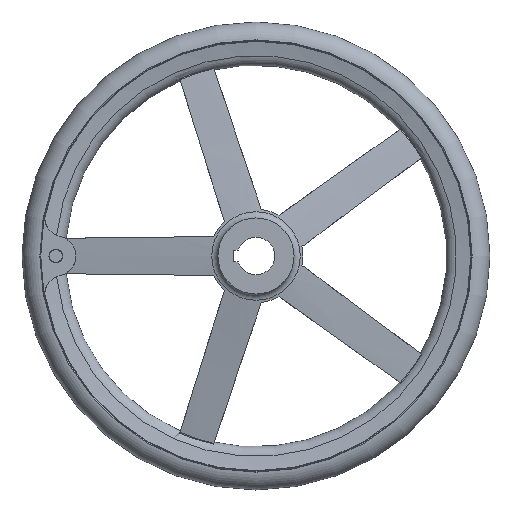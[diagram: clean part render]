
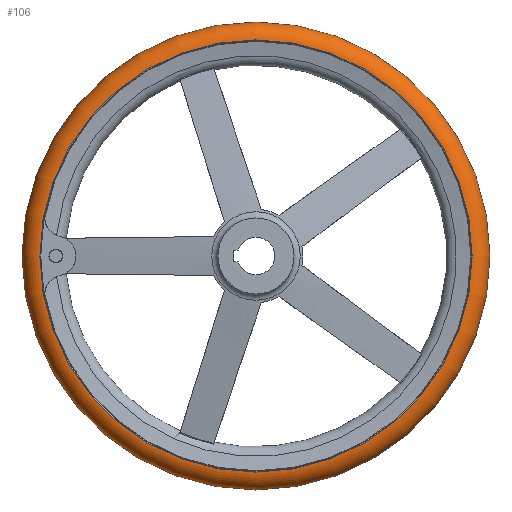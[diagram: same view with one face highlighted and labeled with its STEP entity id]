
A CAD part, left-side view. The second image highlights one B-rep face of the part: STEP entity #106.
In plain terms, the highlighted toroidal (fillet/blend) face has major radius 183.986 mm and minor radius 16.015 mm.
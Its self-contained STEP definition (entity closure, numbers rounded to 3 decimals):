
#106 = ADVANCED_FACE( '', ( #214, #215, #216 ), #217, .T. );
#214 = FACE_BOUND( '', #376, .T. );
#215 = FACE_OUTER_BOUND( '', #377, .T. );
#216 = FACE_OUTER_BOUND( '', #378, .T. );
#217 = TOROIDAL_SURFACE( '', #379, 183.986, 16.014 );
#376 = VERTEX_LOOP( '', #771 );
#377 = EDGE_LOOP( '', ( #772 ) );
#378 = EDGE_LOOP( '', ( #773 ) );
#379 = AXIS2_PLACEMENT_3D( '', #774, #775, #776 );
#771 = VERTEX_POINT( '', #1155 );
#772 = ORIENTED_EDGE( '', *, *, #1156, .T. );
#773 = ORIENTED_EDGE( '', *, *, #1131, .F. );
#774 = CARTESIAN_POINT( '', ( 47., 0., 0. ) );
#775 = DIRECTION( '', ( 1., 0., 0. ) );
#776 = DIRECTION( '', ( 0., 1., 0. ) );
#1131 = EDGE_CURVE( '', #1383, #1383, #1384, .T. );
#1155 = CARTESIAN_POINT( '', ( 47., 200., 0. ) );
#1156 = EDGE_CURVE( '', #1419, #1419, #1420, .T. );
#1383 = VERTEX_POINT( '', #2153 );
#1384 = CIRCLE( '', #2154, 184.667 );
#1419 = VERTEX_POINT( '', #2280 );
#1420 = CIRCLE( '', #2281, 184.667 );
#2153 = CARTESIAN_POINT( '', ( 63., 184.667, 0. ) );
#2154 = AXIS2_PLACEMENT_3D( '', #2566, #2567, #2568 );
#2280 = CARTESIAN_POINT( '', ( 31., 184.667, 0. ) );
#2281 = AXIS2_PLACEMENT_3D( '', #2607, #2608, #2609 );
#2566 = CARTESIAN_POINT( '', ( 63., 0., 0. ) );
#2567 = DIRECTION( '', ( 1., 0., 0. ) );
#2568 = DIRECTION( '', ( 0., 1., 0. ) );
#2607 = CARTESIAN_POINT( '', ( 31., 0., 0. ) );
#2608 = DIRECTION( '', ( 1., 0., 0. ) );
#2609 = DIRECTION( '', ( 0., 1., 0. ) );
